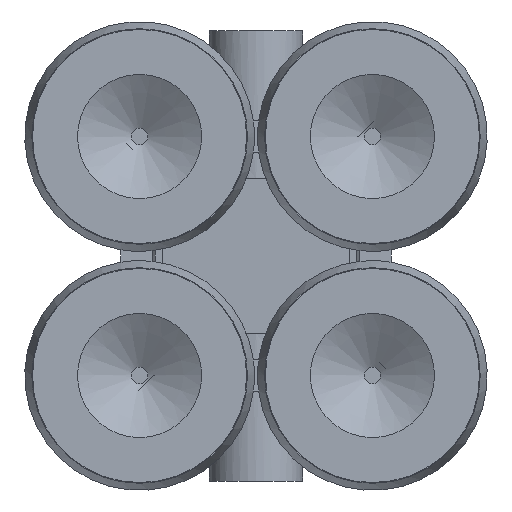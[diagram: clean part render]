
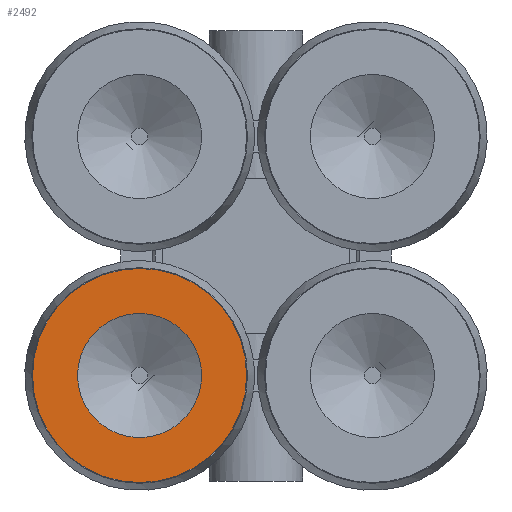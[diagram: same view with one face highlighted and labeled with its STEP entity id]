
A CAD part, front view. The second image highlights one B-rep face of the part: STEP entity #2492.
In plain terms, the highlighted planar face has unit normal (0, -1, 0).
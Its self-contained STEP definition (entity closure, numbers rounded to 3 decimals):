
#18=FACE_BOUND('',#692,.T.);
#376=PLANE('',#2769);
#545=FACE_OUTER_BOUND('',#691,.T.);
#691=EDGE_LOOP('',(#2157,#2158));
#692=EDGE_LOOP('',(#2159,#2160));
#856=CIRCLE('',#2755,4.);
#857=CIRCLE('',#2756,4.);
#862=CIRCLE('',#2770,6.9);
#863=CIRCLE('',#2771,6.9);
#1160=VERTEX_POINT('',#4663);
#1161=VERTEX_POINT('',#4664);
#1166=VERTEX_POINT('',#4690);
#1167=VERTEX_POINT('',#4691);
#1513=EDGE_CURVE('',#1160,#1161,#856,.T.);
#1514=EDGE_CURVE('',#1161,#1160,#857,.T.);
#1525=EDGE_CURVE('',#1166,#1167,#862,.T.);
#1526=EDGE_CURVE('',#1167,#1166,#863,.T.);
#2157=ORIENTED_EDGE('',*,*,#1525,.T.);
#2158=ORIENTED_EDGE('',*,*,#1526,.T.);
#2159=ORIENTED_EDGE('',*,*,#1513,.T.);
#2160=ORIENTED_EDGE('',*,*,#1514,.T.);
#2492=ADVANCED_FACE('',(#545,#18),#376,.F.);
#2755=AXIS2_PLACEMENT_3D('',#4665,#3367,#3368);
#2756=AXIS2_PLACEMENT_3D('',#4666,#3369,#3370);
#2769=AXIS2_PLACEMENT_3D('',#4689,#3401,#3402);
#2770=AXIS2_PLACEMENT_3D('',#4692,#3403,#3404);
#2771=AXIS2_PLACEMENT_3D('',#4693,#3405,#3406);
#3367=DIRECTION('center_axis',(0.,1.,0.));
#3368=DIRECTION('ref_axis',(1.,0.,0.));
#3369=DIRECTION('center_axis',(0.,1.,0.));
#3370=DIRECTION('ref_axis',(1.,0.,0.));
#3401=DIRECTION('center_axis',(0.,1.,0.));
#3402=DIRECTION('ref_axis',(0.,0.,1.));
#3403=DIRECTION('center_axis',(0.,-1.,0.));
#3404=DIRECTION('ref_axis',(1.,0.,0.));
#3405=DIRECTION('center_axis',(0.,-1.,0.));
#3406=DIRECTION('ref_axis',(1.,0.,0.));
#4663=CARTESIAN_POINT('',(-3.5,-18.,-7.7));
#4664=CARTESIAN_POINT('',(-11.5,-18.,-7.7));
#4665=CARTESIAN_POINT('Origin',(-7.5,-18.,-7.7));
#4666=CARTESIAN_POINT('Origin',(-7.5,-18.,-7.7));
#4689=CARTESIAN_POINT('Origin',(-14.4,-18.,-7.7));
#4690=CARTESIAN_POINT('',(-14.4,-18.,-7.7));
#4691=CARTESIAN_POINT('',(-0.6,-18.,-7.7));
#4692=CARTESIAN_POINT('Origin',(-7.5,-18.,-7.7));
#4693=CARTESIAN_POINT('Origin',(-7.5,-18.,-7.7));
